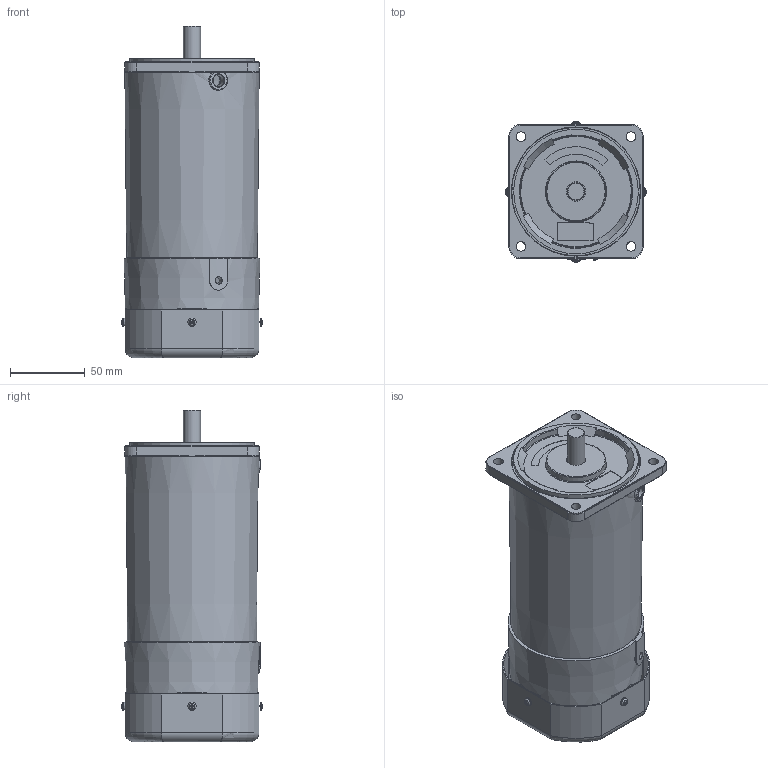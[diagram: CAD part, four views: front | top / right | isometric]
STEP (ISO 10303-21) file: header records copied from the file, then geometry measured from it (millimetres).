
FILE_DESCRIPTION(/* description */ (''),/* implementation_level */ '2;1');
FILE_NAME(/* name */ 'Y:\제품연구개발\4. 개발프로젝트\2. 프로젝트_제품군별\2. STANDARD AC\공유 (이현극)\AC 3D 파일 정리 및 검토\S9I180_-E\S9I180G_-E.stp',/* time_stamp */ '2024-01-03T09:34:04+09:00',/* author */ ('shyi1037'),/* organization */ (''),/* preprocessor_version */ 'ST-DEVELOPER v18.1',/* originating_system */ 'Autodesk Inventor 2022',/* authorisation */ '');
FILE_SCHEMA (('AUTOMOTIVE_DESIGN { 1 0 10303 214 3 1 1 }'));
Length unit declared in the file: millimetre
Products named in the file (1): S9I180G_-E
Bounding box: 94.36 x 94.36 x 222.1 mm (x, y, z)
Volume: 288576.7 mm3; surface area: 187707.4 mm2
Topology: 4 solids, 4 shells, 647 faces, 1677 edges, 1095 vertices
Faces by surface type: plane 255, cylinder 167, cone 87, torus 85, bspline 48, sphere 5
Full cylindrical faces by diameter (mm): 1.5 x12, 2.459 x4, 2.693 x4, 3 x8, 3.5 x4, 5 x5, 6.5 x5, 8 x2, 10 x1, 10.2 x1, 11.47 x1, 12 x2, 13 x1, 14.9 x1, 15 x1, 19 x2, 26 x1, 28 x1, 29 x1, 34 x1, 40 x1, 44.8 x1, 46 x1, 58.8 x1, 60 x2, 66 x1, 68.4 x1, 70 x1, 80 x1, 83 x1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
Entity records: 24625 total; most frequent: CARTESIAN_POINT 7950, DIRECTION 3339, ORIENTED_EDGE 3338, EDGE_CURVE 1669, AXIS2_PLACEMENT_3D 1346, VERTEX_POINT 1095, EDGE_LOOP 774, CIRCLE 714
